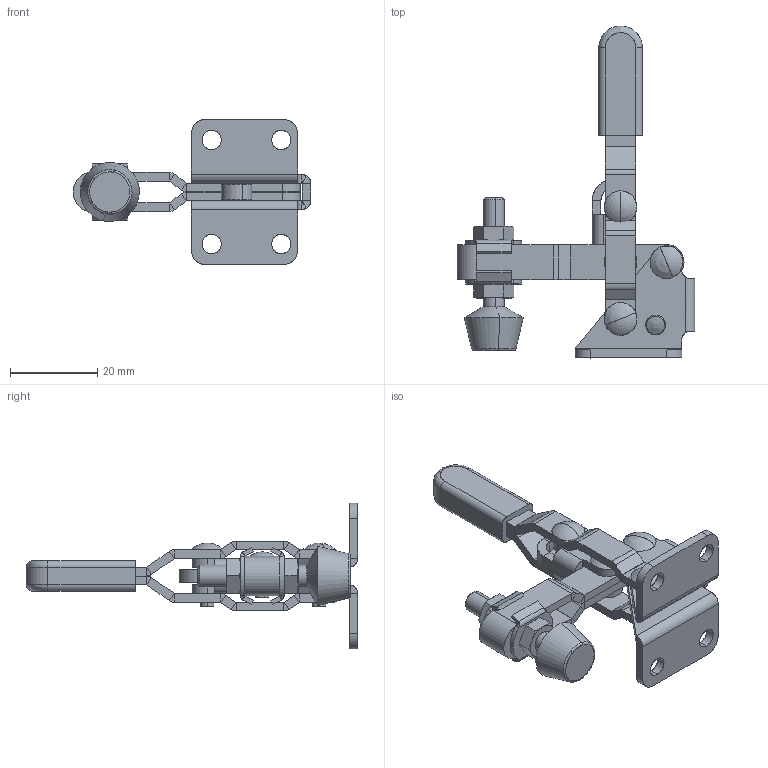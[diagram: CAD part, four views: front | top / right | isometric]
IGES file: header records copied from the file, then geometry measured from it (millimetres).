
Start section: SolidWorks IGES file using analytic representation for surfaces
Global section: file name: \\BARTOP_SV6\share\SOLIDWORKS\工具事業部\坂入用\受け渡し\2015.06.30-2\ISK-HV1500\ISK-HV1500.IGS; native system: SolidWorks 2015; preprocessor: SolidWorks 2015; author: SOLID02; date: 150630.162727; units: millimetre
Bounding box: 54.4 x 75.89 x 33.3 mm (x, y, z)
Surface area: 13391.5 mm2 (no closed solid volume)
Topology: 0 solids, 0 shells, 486 faces, 5254 edges, 5248 vertices
Faces by surface type: bspline 272, revolution 214
